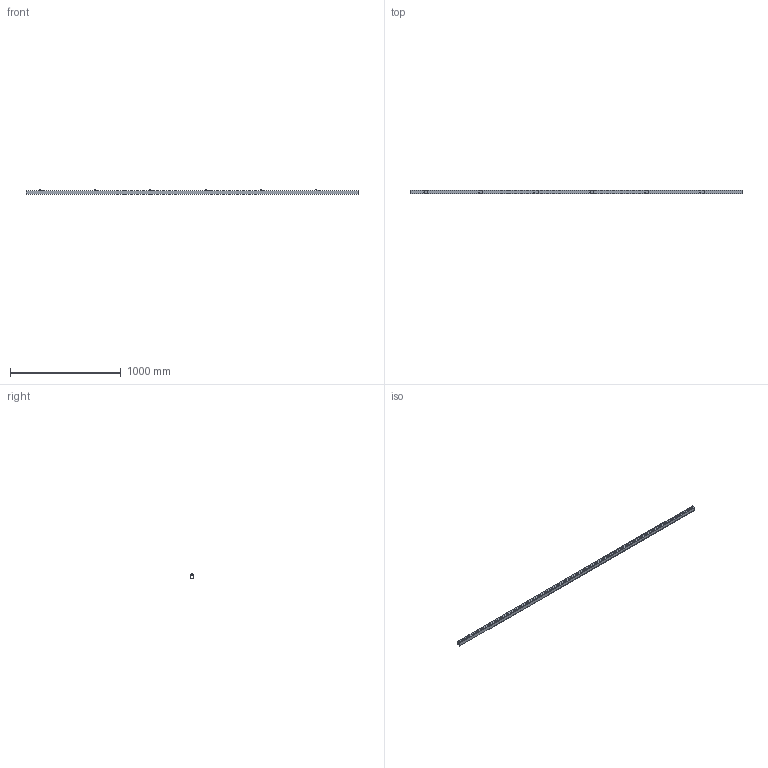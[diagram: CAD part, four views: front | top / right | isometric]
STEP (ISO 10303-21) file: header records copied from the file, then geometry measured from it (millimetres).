
FILE_DESCRIPTION(('STEP AP242'),'1');
FILE_NAME('OPO_65.081.64_volu_schn_3d.stp','2026-01-30T20:51:24',(' '),(' '),'Spatial InterOp 3D',' ',' ');
FILE_SCHEMA(('AP242_MANAGED_MODEL_BASED_3D_ENGINEERING_MIM_LF {1 0 10303 442 1 1 4}'));
Length unit declared in the file: millimetre
Products named in the file (1): 1
Bounding box: 3000 x 33 x 43 mm (x, y, z)
Volume: 881824.5 mm3; surface area: 704040.6 mm2
Topology: 1 solids, 1 shells, 154 faces, 691 edges, 828 vertices
Faces by surface type: plane 134, cylinder 20
Entity records: 9347 total; most frequent: CARTESIAN_POINT 1117, DIRECTION 1063, ORIENTED_EDGE 824, LINE 631, VECTOR 631, STYLED_ITEM 433, PRESENTATION_STYLE_ASSIGNMENT 433, COLOUR_RGB 433
